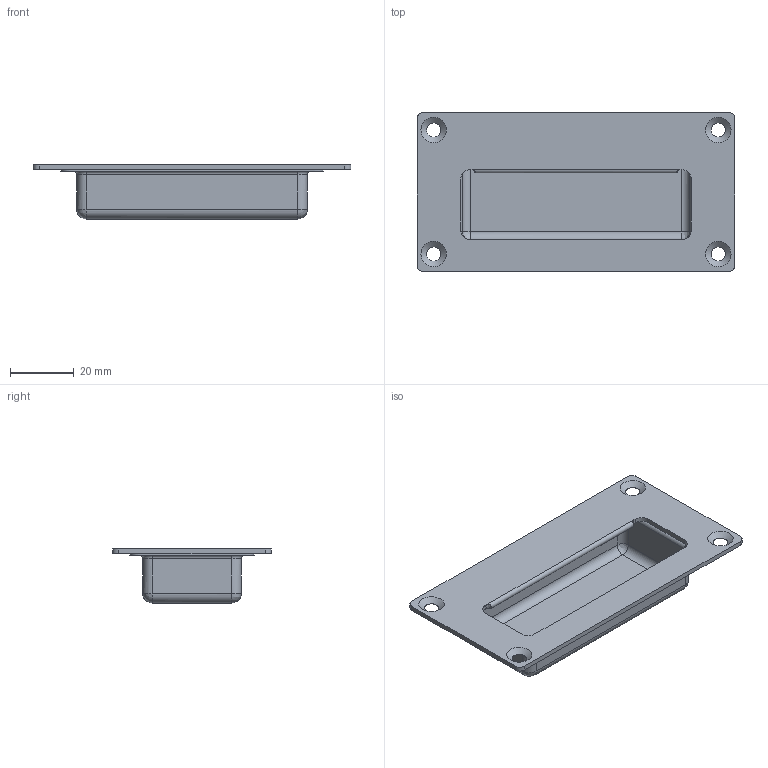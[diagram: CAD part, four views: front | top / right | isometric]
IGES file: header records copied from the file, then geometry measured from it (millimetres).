
Global section: file name: DR_A-MS6-P; native system: Autodesk Inventor 2015; preprocessor: unknown; author: Administrator; date: 20170718.141357; units: millimetre
Bounding box: 100 x 50 x 17 mm (x, y, z)
Volume: 7992.8 mm3; surface area: 19449.3 mm2
Topology: 2 solids, 2 shells, 94 faces, 226 edges, 138 vertices
Faces by surface type: bspline 94
